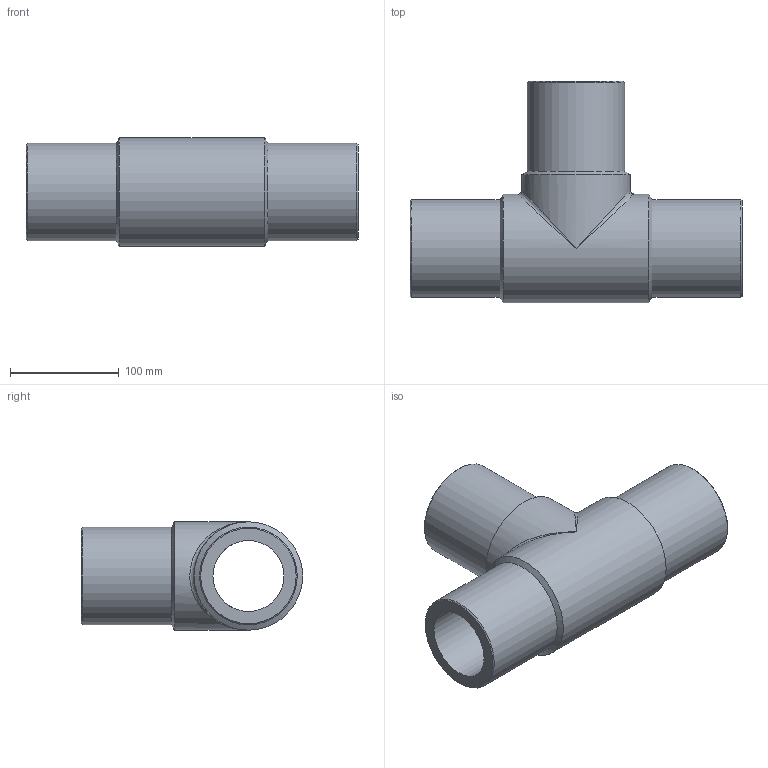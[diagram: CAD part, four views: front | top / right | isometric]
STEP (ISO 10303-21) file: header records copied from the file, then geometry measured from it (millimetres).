
FILE_DESCRIPTION(/* description */ ('Unknown'),/* implementation_level */ '2;1');
FILE_NAME(/* name */ 'TP090H',/* time_stamp */ '2021-08-12T16:37:30+02:00',/* author */ ('Unknown'),/* organization */ ('Unknown'),/* preprocessor_version */ 'ST-DEVELOPER v16.7',/* originating_system */ 'Solid Edge',/* authorisation */ 'Unknown');
FILE_SCHEMA (('AUTOMOTIVE_DESIGN {1 0 10303 214 3 1 1}'));
Length unit declared in the file: millimetre
Products named in the file (1): TP090H
Bounding box: 306 x 204 x 100 mm (x, y, z)
Volume: 1449089.5 mm3; surface area: 213341.9 mm2
Topology: 1 solids, 1 shells, 18 faces, 44 edges, 23 vertices
Faces by surface type: cylinder 7, cone 6, plane 3, bspline 2
Full cylindrical faces by diameter (mm): 65.4 x2, 90 x3, 100 x2
Entity records: 504 total; most frequent: CARTESIAN_POINT 147, DIRECTION 76, ORIENTED_EDGE 42, AXIS2_PLACEMENT_3D 38, EDGE_LOOP 36, FACE_BOUND 36, EDGE_CURVE 21, VERTEX_POINT 19
